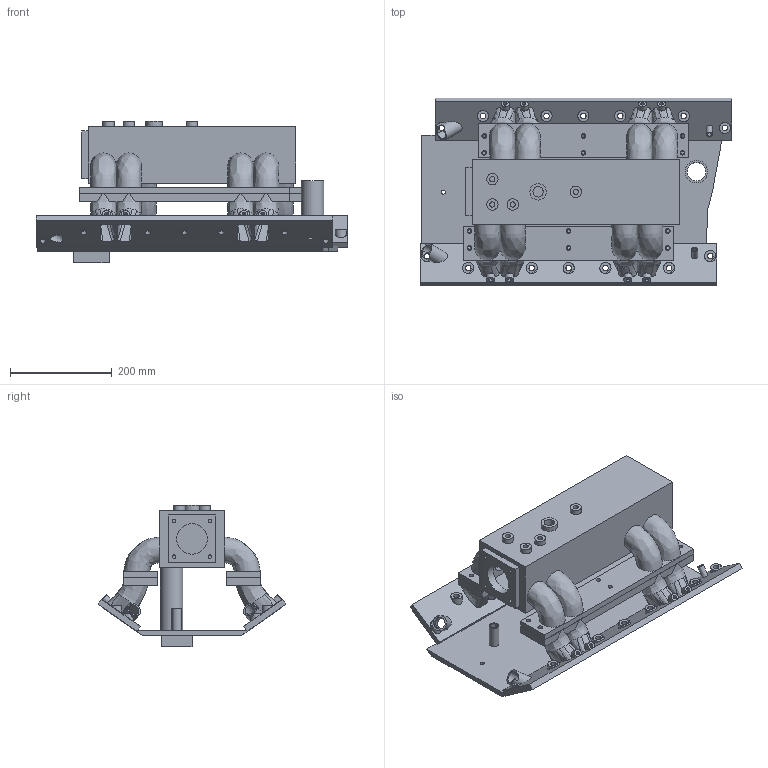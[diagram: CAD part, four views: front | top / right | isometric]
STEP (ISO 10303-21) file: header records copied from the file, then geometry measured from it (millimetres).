
FILE_DESCRIPTION(('Open CASCADE Model'),'2;1');
FILE_NAME('Open CASCADE Shape Model','2026-09-28T12:24:42',('Author'),( 'Open CASCADE'),'Open CASCADE STEP processor 8.0','build123d', 'Unknown');
FILE_SCHEMA(('AUTOMOTIVE_DESIGN { 1 0 10303 214 1 1 1 1 }'));
Products named in the file (1): COMPOUND
Bounding box: 612 x 369.55 x 277.91 mm (x, y, z)
Volume: 5159839 mm3; surface area: 1539311.5 mm2
Topology: 2 solids, 2 shells, 443 faces, 1283 edges, 838 vertices
Faces by surface type: bspline 196, plane 145, cylinder 102
Full cylindrical faces by diameter (mm): 6.8 x16, 7 x8, 8 x3, 9 x12, 10.2 x4, 11 x14, 12 x2, 13 x1, 19 x1, 20.4 x1, 22 x12, 22.2 x4, 23 x2, 30 x2, 32.4 x1, 36 x1, 44 x1, 60 x1
Entity records: 90523 total; most frequent: CARTESIAN_POINT 68405, DIRECTION 3029, ORIENTED_EDGE 2518, PCURVE 2502, DEFINITIONAL_REPRESENTATION 2502, B_SPLINE_CURVE_WITH_KNOTS 1603, LINE 1396, VECTOR 1396
